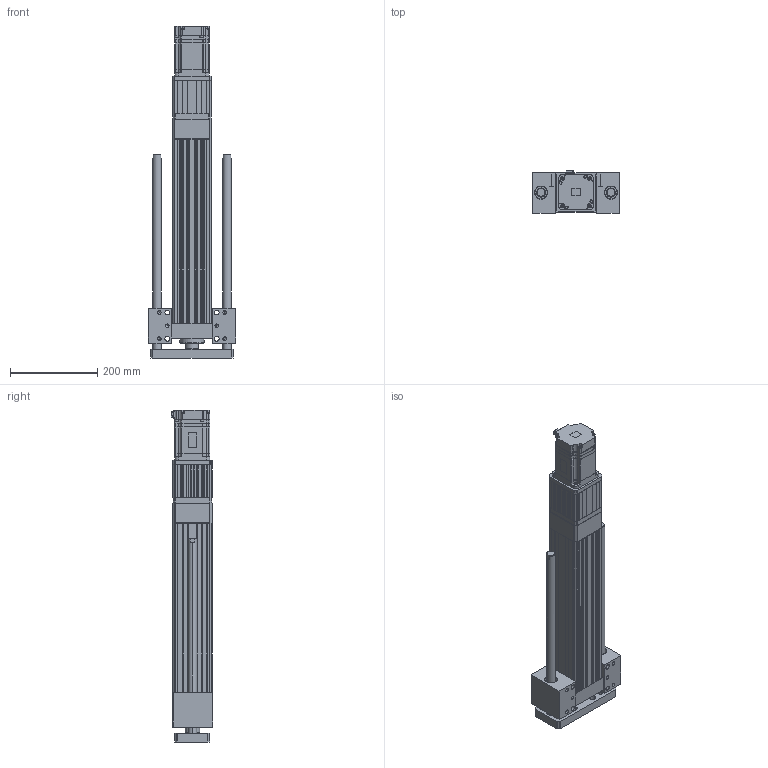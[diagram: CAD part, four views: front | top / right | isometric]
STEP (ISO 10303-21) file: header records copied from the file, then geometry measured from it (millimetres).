
FILE_DESCRIPTION (( 'STEP AP203' ), '1' );
FILE_NAME ('ANS090R-HS300-05(10)(20)-W75.STEP', '2019-03-02T09:22:25', ( 'user' ), ( '' ), 'SwSTEP 2.0', 'SolidWorks 2013', '' );
FILE_SCHEMA (( 'CONFIG_CONTROL_DESIGN' ));
Length unit declared in the file: millimetre
Products named in the file (4): SGMJV_08A_A21; ANS090 ROD ST300-H; ANS090R-HS300-05(10)(20)-W75; ANS090R HS300 VER2
Assembly tree (3 placements, depth 2):
  ANS090R-HS300-05(10)(20)-W75
    ANS090R HS300 VER2
    SGMJV_08A_A21
    ANS090 ROD ST300-H
Bounding box: 200 x 95.8 x 760.1 mm (x, y, z)
Volume: 4531230.1 mm3; surface area: 747361.3 mm2
Topology: 3 solids, 3 shells, 1600 faces, 4288 edges, 2780 vertices
Faces by surface type: plane 982, cylinder 486, cone 128, bspline 4
Entity records: 50298 total; most frequent: CARTESIAN_POINT 9440, ORIENTED_EDGE 8528, DIRECTION 8312, EDGE_CURVE 4264, VECTOR 3080, LINE 3080, VERTEX_POINT 2780, AXIS2_PLACEMENT_3D 2616
